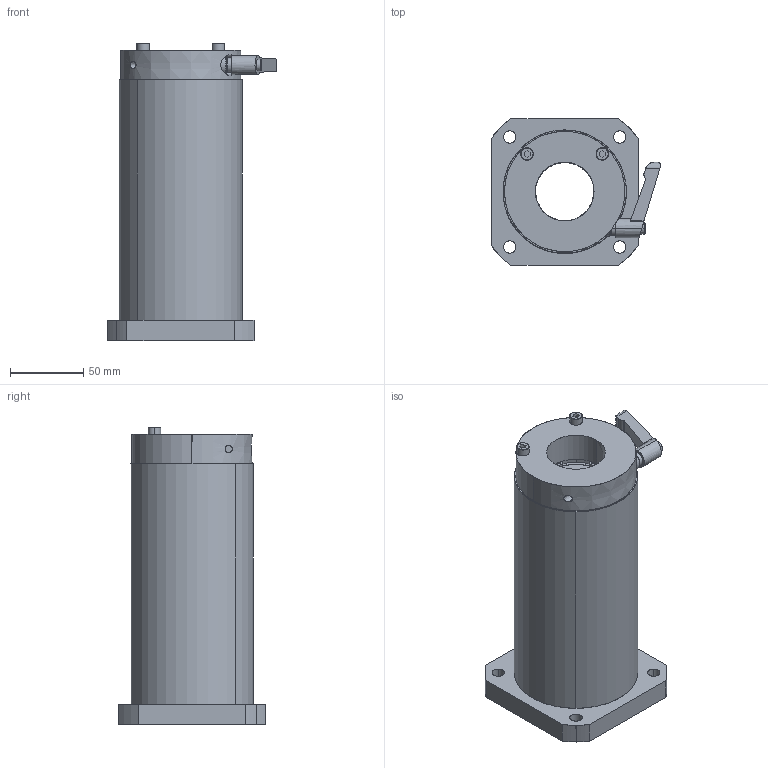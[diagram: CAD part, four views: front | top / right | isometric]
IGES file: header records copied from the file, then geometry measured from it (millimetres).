
Start section: SolidWorks IGES file using analytic representation for surfaces
Global section: file name: C:\Users\yamad\Desktop\IGES\LFWK40-CS.IGS; native system: SolidWorks 2019; preprocessor: SolidWorks 2019; author: yamad; date: 230626.165425; units: millimetre
Bounding box: 115.4 x 100 x 203 mm (x, y, z)
Surface area: 123637.2 mm2 (no closed solid volume)
Topology: 0 solids, 0 shells, 196 faces, 5102 edges, 5102 vertices
Faces by surface type: bspline 106, revolution 90
